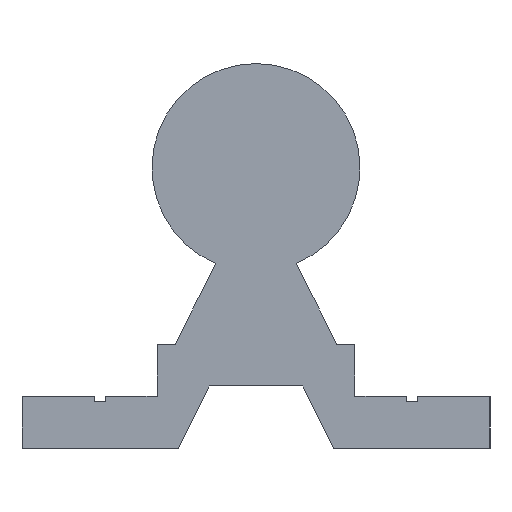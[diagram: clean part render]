
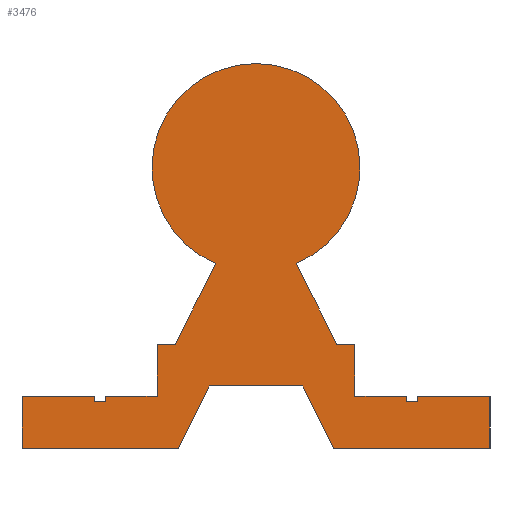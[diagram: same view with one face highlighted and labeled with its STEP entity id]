
A CAD part, left-side view. The second image highlights one B-rep face of the part: STEP entity #3476.
In plain terms, the highlighted planar face has unit normal (-1, 0, 0).
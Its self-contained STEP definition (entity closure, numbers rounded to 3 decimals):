
#86=LINE('',#4963,#376);
#96=LINE('',#5004,#386);
#128=LINE('',#5233,#418);
#310=LINE('',#5899,#600);
#314=LINE('',#5907,#604);
#317=LINE('',#5913,#607);
#320=LINE('',#5919,#610);
#323=LINE('',#5925,#613);
#327=LINE('',#5932,#617);
#330=LINE('',#5937,#620);
#332=LINE('',#5941,#622);
#333=LINE('',#5943,#623);
#334=LINE('',#5946,#624);
#337=LINE('',#5952,#627);
#340=LINE('',#5958,#630);
#343=LINE('',#5965,#633);
#347=LINE('',#5973,#637);
#350=LINE('',#5978,#640);
#353=LINE('',#5983,#643);
#355=LINE('',#5987,#645);
#356=LINE('',#5989,#646);
#357=LINE('',#5992,#647);
#360=LINE('',#5997,#650);
#376=VECTOR('',#3915,10.);
#386=VECTOR('',#3937,10.);
#418=VECTOR('',#4105,10.);
#600=VECTOR('',#4793,10.);
#604=VECTOR('',#4799,10.);
#607=VECTOR('',#4804,10.);
#610=VECTOR('',#4809,10.);
#613=VECTOR('',#4814,10.);
#617=VECTOR('',#4820,10.);
#620=VECTOR('',#4825,10.);
#622=VECTOR('',#4829,10.);
#623=VECTOR('',#4832,10.);
#624=VECTOR('',#4835,10.);
#627=VECTOR('',#4840,10.);
#630=VECTOR('',#4845,10.);
#633=VECTOR('',#4850,10.);
#637=VECTOR('',#4856,10.);
#640=VECTOR('',#4861,10.);
#643=VECTOR('',#4866,10.);
#645=VECTOR('',#4870,10.);
#646=VECTOR('',#4873,10.);
#647=VECTOR('',#4876,10.);
#650=VECTOR('',#4881,10.);
#760=PLANE('',#3864);
#914=FACE_OUTER_BOUND('',#1096,.T.);
#1096=EDGE_LOOP('',(#3283,#3284,#3285,#3286,#3287,#3288,#3289,#3290,#3291,
#3292,#3293,#3294,#3295,#3296,#3297,#3298,#3299,#3300,#3301,#3302,#3303,
#3304,#3305,#3306));
#1309=CIRCLE('',#3861,10.);
#1373=VERTEX_POINT('',#4960);
#1374=VERTEX_POINT('',#4962);
#1386=VERTEX_POINT('',#5001);
#1387=VERTEX_POINT('',#5003);
#1458=VERTEX_POINT('',#5230);
#1459=VERTEX_POINT('',#5232);
#1668=VERTEX_POINT('',#5897);
#1669=VERTEX_POINT('',#5898);
#1672=VERTEX_POINT('',#5906);
#1674=VERTEX_POINT('',#5912);
#1676=VERTEX_POINT('',#5918);
#1678=VERTEX_POINT('',#5924);
#1680=VERTEX_POINT('',#5930);
#1681=VERTEX_POINT('',#5935);
#1682=VERTEX_POINT('',#5939);
#1683=VERTEX_POINT('',#5945);
#1685=VERTEX_POINT('',#5951);
#1687=VERTEX_POINT('',#5957);
#1689=VERTEX_POINT('',#5963);
#1690=VERTEX_POINT('',#5964);
#1693=VERTEX_POINT('',#5972);
#1695=VERTEX_POINT('',#5981);
#1696=VERTEX_POINT('',#5985);
#1697=VERTEX_POINT('',#5991);
#1730=EDGE_CURVE('',#1373,#1374,#86,.T.);
#1746=EDGE_CURVE('',#1386,#1387,#96,.T.);
#1844=EDGE_CURVE('',#1458,#1459,#128,.T.);
#2181=EDGE_CURVE('',#1668,#1669,#310,.T.);
#2185=EDGE_CURVE('',#1672,#1668,#314,.T.);
#2188=EDGE_CURVE('',#1674,#1672,#317,.T.);
#2191=EDGE_CURVE('',#1676,#1674,#320,.T.);
#2194=EDGE_CURVE('',#1678,#1676,#323,.T.);
#2198=EDGE_CURVE('',#1680,#1678,#327,.T.);
#2201=EDGE_CURVE('',#1681,#1680,#330,.T.);
#2203=EDGE_CURVE('',#1682,#1681,#332,.T.);
#2204=EDGE_CURVE('',#1459,#1682,#333,.T.);
#2205=EDGE_CURVE('',#1683,#1458,#334,.T.);
#2208=EDGE_CURVE('',#1685,#1683,#337,.T.);
#2211=EDGE_CURVE('',#1687,#1685,#340,.T.);
#2214=EDGE_CURVE('',#1689,#1690,#343,.T.);
#2218=EDGE_CURVE('',#1693,#1689,#347,.T.);
#2221=EDGE_CURVE('',#1374,#1693,#350,.T.);
#2224=EDGE_CURVE('',#1695,#1373,#353,.T.);
#2226=EDGE_CURVE('',#1696,#1695,#355,.T.);
#2227=EDGE_CURVE('',#1387,#1696,#356,.T.);
#2228=EDGE_CURVE('',#1697,#1386,#357,.T.);
#2231=EDGE_CURVE('',#1669,#1697,#360,.T.);
#2233=EDGE_CURVE('',#1690,#1687,#1309,.T.);
#3283=ORIENTED_EDGE('',*,*,#2233,.F.);
#3284=ORIENTED_EDGE('',*,*,#2214,.F.);
#3285=ORIENTED_EDGE('',*,*,#2218,.F.);
#3286=ORIENTED_EDGE('',*,*,#2221,.F.);
#3287=ORIENTED_EDGE('',*,*,#1730,.F.);
#3288=ORIENTED_EDGE('',*,*,#2224,.F.);
#3289=ORIENTED_EDGE('',*,*,#2226,.F.);
#3290=ORIENTED_EDGE('',*,*,#2227,.F.);
#3291=ORIENTED_EDGE('',*,*,#1746,.F.);
#3292=ORIENTED_EDGE('',*,*,#2228,.F.);
#3293=ORIENTED_EDGE('',*,*,#2231,.F.);
#3294=ORIENTED_EDGE('',*,*,#2181,.F.);
#3295=ORIENTED_EDGE('',*,*,#2185,.F.);
#3296=ORIENTED_EDGE('',*,*,#2188,.F.);
#3297=ORIENTED_EDGE('',*,*,#2191,.F.);
#3298=ORIENTED_EDGE('',*,*,#2194,.F.);
#3299=ORIENTED_EDGE('',*,*,#2198,.F.);
#3300=ORIENTED_EDGE('',*,*,#2201,.F.);
#3301=ORIENTED_EDGE('',*,*,#2203,.F.);
#3302=ORIENTED_EDGE('',*,*,#2204,.F.);
#3303=ORIENTED_EDGE('',*,*,#1844,.F.);
#3304=ORIENTED_EDGE('',*,*,#2205,.F.);
#3305=ORIENTED_EDGE('',*,*,#2208,.F.);
#3306=ORIENTED_EDGE('',*,*,#2211,.F.);
#3476=ADVANCED_FACE('',(#914),#760,.F.);
#3861=AXIS2_PLACEMENT_3D('',#6000,#4885,#4886);
#3864=AXIS2_PLACEMENT_3D('',#6003,#4891,#4892);
#3915=DIRECTION('',(0.,-1.,0.));
#3937=DIRECTION('',(0.,-1.,0.));
#4105=DIRECTION('',(0.,-1.,0.));
#4793=DIRECTION('',(0.,0.447,-0.894));
#4799=DIRECTION('',(0.,1.,0.));
#4804=DIRECTION('',(0.,0.447,0.894));
#4809=DIRECTION('',(0.,1.,0.));
#4814=DIRECTION('',(0.,0.,-1.));
#4820=DIRECTION('',(0.,-1.,0.));
#4825=DIRECTION('',(0.,0.,1.));
#4829=DIRECTION('',(0.,-1.,0.));
#4832=DIRECTION('',(0.,0.,-1.));
#4835=DIRECTION('',(0.,0.,-1.));
#4840=DIRECTION('',(0.,-1.,0.));
#4845=DIRECTION('',(0.,-0.447,-0.894));
#4850=DIRECTION('',(0.,-0.447,0.894));
#4856=DIRECTION('',(0.,-1.,0.));
#4861=DIRECTION('',(0.,0.,1.));
#4866=DIRECTION('',(0.,0.,1.));
#4870=DIRECTION('',(0.,-1.,0.));
#4873=DIRECTION('',(0.,0.,-1.));
#4876=DIRECTION('',(0.,0.,1.));
#4881=DIRECTION('',(0.,1.,0.));
#4885=DIRECTION('center_axis',(1.,0.,0.));
#4886=DIRECTION('ref_axis',(0.,1.,0.));
#4891=DIRECTION('center_axis',(1.,0.,0.));
#4892=DIRECTION('ref_axis',(0.,0.,-1.));
#4960=CARTESIAN_POINT('',(0.,14.5,5.));
#4962=CARTESIAN_POINT('',(0.,9.5,5.));
#4963=CARTESIAN_POINT('',(0.,14.5,5.));
#5001=CARTESIAN_POINT('',(0.,22.5,5.));
#5003=CARTESIAN_POINT('',(0.,15.5,5.));
#5004=CARTESIAN_POINT('',(0.,22.5,5.));
#5230=CARTESIAN_POINT('',(0.,-9.5,5.));
#5232=CARTESIAN_POINT('',(0.,-14.5,5.));
#5233=CARTESIAN_POINT('',(0.,-9.5,5.));
#5897=CARTESIAN_POINT('',(0.,4.5,6.));
#5898=CARTESIAN_POINT('',(0.,7.5,0.));
#5899=CARTESIAN_POINT('',(0.,4.5,6.));
#5906=CARTESIAN_POINT('',(0.,-4.5,6.));
#5907=CARTESIAN_POINT('',(0.,-4.5,6.));
#5912=CARTESIAN_POINT('',(0.,-7.5,0.));
#5913=CARTESIAN_POINT('',(0.,-7.5,0.));
#5918=CARTESIAN_POINT('',(0.,-22.5,0.));
#5919=CARTESIAN_POINT('',(0.,-22.5,0.));
#5924=CARTESIAN_POINT('',(0.,-22.5,5.));
#5925=CARTESIAN_POINT('',(0.,-22.5,5.));
#5930=CARTESIAN_POINT('',(0.,-15.5,5.));
#5932=CARTESIAN_POINT('',(0.,-15.5,5.));
#5935=CARTESIAN_POINT('',(0.,-15.5,4.5));
#5937=CARTESIAN_POINT('',(0.,-15.5,4.5));
#5939=CARTESIAN_POINT('',(0.,-14.5,4.5));
#5941=CARTESIAN_POINT('',(0.,-14.5,4.5));
#5943=CARTESIAN_POINT('',(0.,-14.5,5.));
#5945=CARTESIAN_POINT('',(0.,-9.5,10.));
#5946=CARTESIAN_POINT('',(0.,-9.5,10.));
#5951=CARTESIAN_POINT('',(0.,-7.766,10.));
#5952=CARTESIAN_POINT('',(0.,-7.766,10.));
#5957=CARTESIAN_POINT('',(0.,-3.875,17.781));
#5958=CARTESIAN_POINT('',(0.,-3.875,17.781));
#5963=CARTESIAN_POINT('',(0.,7.766,10.));
#5964=CARTESIAN_POINT('',(0.,3.875,17.781));
#5965=CARTESIAN_POINT('',(0.,7.766,10.));
#5972=CARTESIAN_POINT('',(0.,9.5,10.));
#5973=CARTESIAN_POINT('',(0.,9.5,10.));
#5978=CARTESIAN_POINT('',(0.,9.5,5.));
#5981=CARTESIAN_POINT('',(0.,14.5,4.5));
#5983=CARTESIAN_POINT('',(0.,14.5,4.5));
#5985=CARTESIAN_POINT('',(0.,15.5,4.5));
#5987=CARTESIAN_POINT('',(0.,15.5,4.5));
#5989=CARTESIAN_POINT('',(0.,15.5,5.));
#5991=CARTESIAN_POINT('',(0.,22.5,0.));
#5992=CARTESIAN_POINT('',(0.,22.5,0.));
#5997=CARTESIAN_POINT('',(0.,7.5,0.));
#6000=CARTESIAN_POINT('Origin',(0.,0.,27.));
#6003=CARTESIAN_POINT('Origin',(0.,0.,27.));
